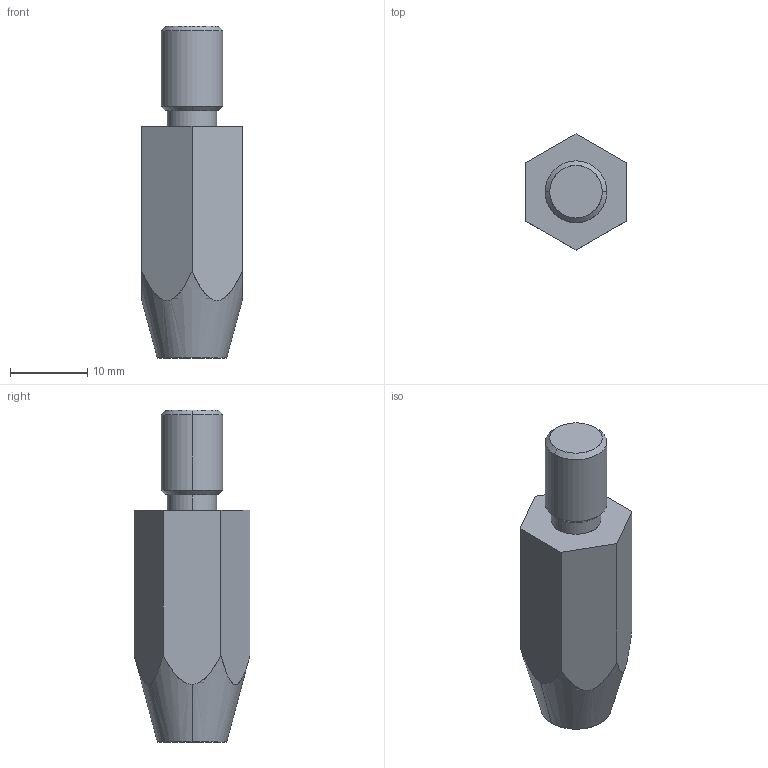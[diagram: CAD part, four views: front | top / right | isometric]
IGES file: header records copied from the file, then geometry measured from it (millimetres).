
Start section: SolidWorks IGES FILE using analytic representation for surfaces
Global section: file name: C:\WIX2\Positioning\3600\3600W082.igs; native system: SolidWorks 2003 by SolidWorks Corporation; preprocessor: Version 5.3; author: Joan; date: 030722.164500; units: millimetre
Bounding box: 13 x 15.01 x 43 mm (x, y, z)
Surface area: 1820.8 mm2 (no closed solid volume)
Topology: 0 solids, 0 shells, 20 faces, 334 edges, 334 vertices
Faces by surface type: revolution 10, bspline 10
